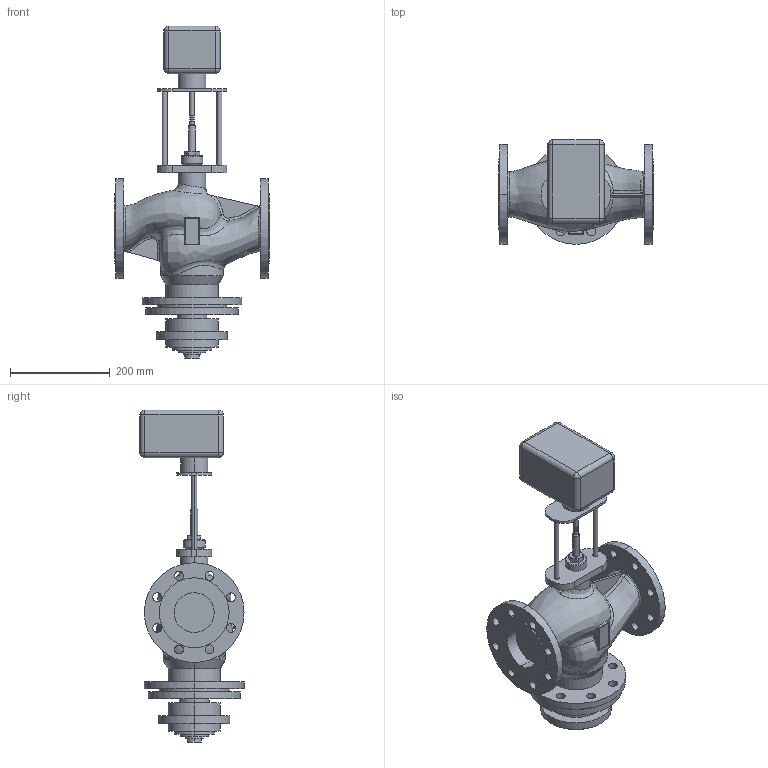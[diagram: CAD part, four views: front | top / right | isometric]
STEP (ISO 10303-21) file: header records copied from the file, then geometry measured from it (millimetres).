
FILE_DESCRIPTION (( 'STEP AP214' ), '1' );
FILE_NAME ('TRV-Ñ-80-X-110.STEP', '2025-12-16T05:51:43', ( '' ), ( '' ), 'SwSTEP 2.0', 'SolidWorks 2023', '' );
FILE_SCHEMA (( 'AUTOMOTIVE_DESIGN' ));
Length unit declared in the file: millimetre
Products named in the file (1): TRV-С-80-X-110
Bounding box: 310 x 209 x 666 mm (x, y, z)
Volume: 8355594.9 mm3; surface area: 614267.5 mm2
Topology: 1 solids, 5 shells, 278 faces, 653 edges, 400 vertices
Faces by surface type: cylinder 146, plane 68, bspline 31, cone 19, sphere 12, torus 2
Entity records: 14439 total; most frequent: CARTESIAN_POINT 8094, DIRECTION 1329, ORIENTED_EDGE 1282, EDGE_CURVE 641, AXIS2_PLACEMENT_3D 553, VERTEX_POINT 400, EDGE_LOOP 357, CIRCLE 305
